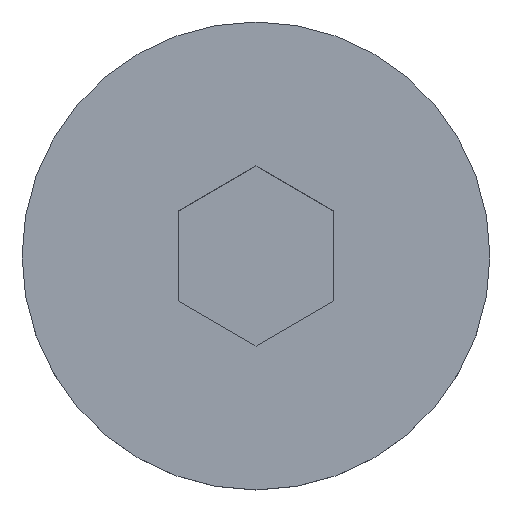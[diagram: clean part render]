
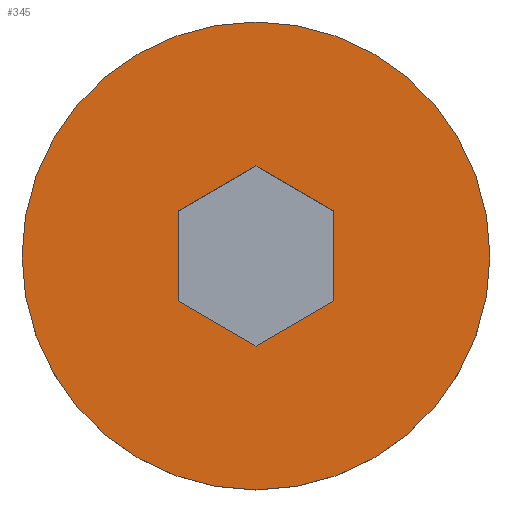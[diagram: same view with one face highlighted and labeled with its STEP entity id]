
A CAD part, top view. The second image highlights one B-rep face of the part: STEP entity #345.
In plain terms, the highlighted planar face has unit normal (0, 0, 1).
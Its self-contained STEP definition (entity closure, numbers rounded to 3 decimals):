
#3 = FACE_BOUND ( 'NONE', #208, .T. ) ;
#18 = DIRECTION ( 'NONE',  ( 1., 0., 0. ) ) ;
#19 = VERTEX_POINT ( 'NONE', #30 ) ;
#22 = DIRECTION ( 'NONE',  ( 0., 0., 1. ) ) ;
#23 = CARTESIAN_POINT ( 'NONE',  ( 0., 0., 1.5 ) ) ;
#29 = EDGE_LOOP ( 'NONE', ( #382, #163 ) ) ;
#30 = CARTESIAN_POINT ( 'NONE',  ( -2.5, 1.443, 1.5 ) ) ;
#31 = CARTESIAN_POINT ( 'NONE',  ( 2.5, 1.443, 1.5 ) ) ;
#42 = LINE ( 'NONE', #31, #423 ) ;
#46 = EDGE_CURVE ( 'NONE', #331, #367, #238, .T. ) ;
#50 = CARTESIAN_POINT ( 'NONE',  ( 2.5, 1.443, 1.5 ) ) ;
#51 = DIRECTION ( 'NONE',  ( -0.866, -0.5, 0. ) ) ;
#62 = CARTESIAN_POINT ( 'NONE',  ( -2.5, -1.443, 1.5 ) ) ;
#67 = DIRECTION ( 'NONE',  ( 0., 1., 0. ) ) ;
#68 = AXIS2_PLACEMENT_3D ( 'NONE', #175, #245, #204 ) ;
#81 = AXIS2_PLACEMENT_3D ( 'NONE', #23, #187, #18 ) ;
#94 = DIRECTION ( 'NONE',  ( 0.866, -0.5, 0. ) ) ;
#97 = ORIENTED_EDGE ( 'NONE', *, *, #351, .F. ) ;
#99 = AXIS2_PLACEMENT_3D ( 'NONE', #159, #22, #123 ) ;
#113 = CARTESIAN_POINT ( 'NONE',  ( 2.5, -1.443, 1.5 ) ) ;
#118 = EDGE_CURVE ( 'NONE', #356, #280, #342, .T. ) ;
#123 = DIRECTION ( 'NONE',  ( 1., 0., 0. ) ) ;
#129 = LINE ( 'NONE', #246, #409 ) ;
#133 = CARTESIAN_POINT ( 'NONE',  ( 2.5, -1.443, 1.5 ) ) ;
#142 = LINE ( 'NONE', #334, #389 ) ;
#146 = DIRECTION ( 'NONE',  ( 0.866, 0.5, 0. ) ) ;
#147 = CIRCLE ( 'NONE', #81, 7.5 ) ;
#150 = EDGE_CURVE ( 'NONE', #280, #404, #42, .T. ) ;
#156 = CARTESIAN_POINT ( 'NONE',  ( 7.5, 0., 1.5 ) ) ;
#158 = EDGE_CURVE ( 'NONE', #349, #356, #142, .T. ) ;
#159 = CARTESIAN_POINT ( 'NONE',  ( 0., 0., 1.5 ) ) ;
#163 = ORIENTED_EDGE ( 'NONE', *, *, #46, .T. ) ;
#164 = CARTESIAN_POINT ( 'NONE',  ( 0., 2.887, 1.5 ) ) ;
#173 = ORIENTED_EDGE ( 'NONE', *, *, #118, .F. ) ;
#175 = CARTESIAN_POINT ( 'NONE',  ( 0., 0., 1.5 ) ) ;
#187 = DIRECTION ( 'NONE',  ( 0., 0., 1. ) ) ;
#189 = VECTOR ( 'NONE', #261, 1000. ) ;
#204 = DIRECTION ( 'NONE',  ( 1., 0., 0. ) ) ;
#208 = EDGE_LOOP ( 'NONE', ( #276, #173, #287, #97, #233, #263 ) ) ;
#218 = EDGE_CURVE ( 'NONE', #404, #19, #129, .T. ) ;
#226 = PLANE ( 'NONE',  #99 ) ;
#233 = ORIENTED_EDGE ( 'NONE', *, *, #325, .F. ) ;
#237 = FACE_OUTER_BOUND ( 'NONE', #29, .T. ) ;
#238 = CIRCLE ( 'NONE', #68, 7.5 ) ;
#245 = DIRECTION ( 'NONE',  ( 0., 0., 1. ) ) ;
#246 = CARTESIAN_POINT ( 'NONE',  ( 0., 2.887, 1.5 ) ) ;
#253 = CARTESIAN_POINT ( 'NONE',  ( -2.5, -1.443, 1.5 ) ) ;
#261 = DIRECTION ( 'NONE',  ( 0., -1., 0. ) ) ;
#263 = ORIENTED_EDGE ( 'NONE', *, *, #218, .F. ) ;
#264 = CARTESIAN_POINT ( 'NONE',  ( -7.5, 0., 1.5 ) ) ;
#266 = VECTOR ( 'NONE', #94, 1000. ) ;
#267 = VECTOR ( 'NONE', #67, 1000. ) ;
#272 = VERTEX_POINT ( 'NONE', #253 ) ;
#276 = ORIENTED_EDGE ( 'NONE', *, *, #150, .F. ) ;
#280 = VERTEX_POINT ( 'NONE', #50 ) ;
#287 = ORIENTED_EDGE ( 'NONE', *, *, #158, .F. ) ;
#299 = EDGE_CURVE ( 'NONE', #367, #331, #147, .T. ) ;
#323 = LINE ( 'NONE', #352, #189 ) ;
#325 = EDGE_CURVE ( 'NONE', #19, #272, #323, .T. ) ;
#331 = VERTEX_POINT ( 'NONE', #156 ) ;
#334 = CARTESIAN_POINT ( 'NONE',  ( 0., -2.887, 1.5 ) ) ;
#342 = LINE ( 'NONE', #113, #267 ) ;
#345 = ADVANCED_FACE ( 'NONE', ( #3, #237 ), #226, .T. ) ;
#349 = VERTEX_POINT ( 'NONE', #385 ) ;
#351 = EDGE_CURVE ( 'NONE', #272, #349, #372, .T. ) ;
#352 = CARTESIAN_POINT ( 'NONE',  ( -2.5, 1.443, 1.5 ) ) ;
#356 = VERTEX_POINT ( 'NONE', #133 ) ;
#367 = VERTEX_POINT ( 'NONE', #264 ) ;
#372 = LINE ( 'NONE', #62, #266 ) ;
#382 = ORIENTED_EDGE ( 'NONE', *, *, #299, .T. ) ;
#385 = CARTESIAN_POINT ( 'NONE',  ( 0., -2.887, 1.5 ) ) ;
#389 = VECTOR ( 'NONE', #146, 1000. ) ;
#404 = VERTEX_POINT ( 'NONE', #164 ) ;
#405 = DIRECTION ( 'NONE',  ( -0.866, 0.5, 0. ) ) ;
#409 = VECTOR ( 'NONE', #51, 1000. ) ;
#423 = VECTOR ( 'NONE', #405, 1000. ) ;
